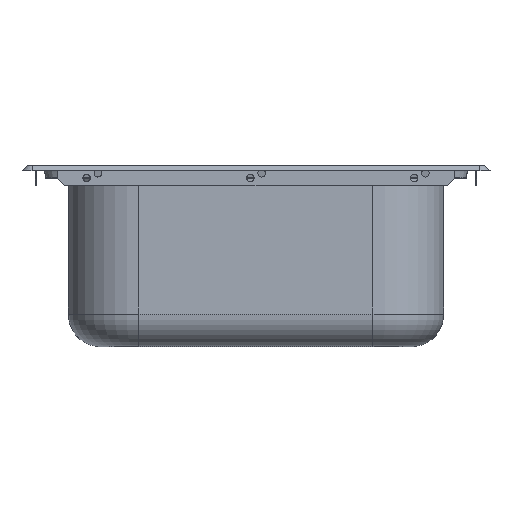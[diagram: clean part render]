
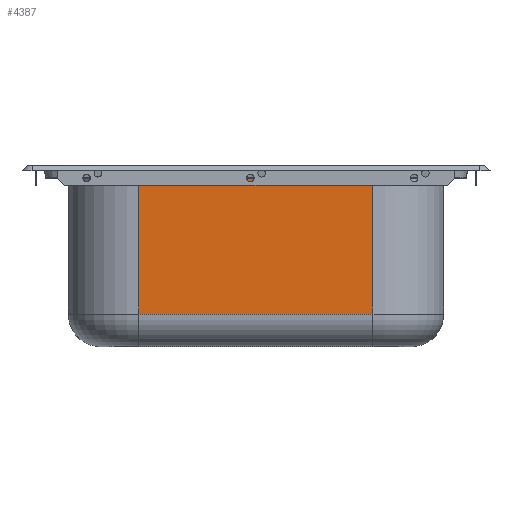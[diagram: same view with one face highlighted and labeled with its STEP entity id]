
A CAD part, front view. The second image highlights one B-rep face of the part: STEP entity #4387.
In plain terms, the highlighted planar face has unit normal (0, -1, 0).
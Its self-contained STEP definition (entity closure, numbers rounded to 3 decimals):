
#4213=CARTESIAN_POINT('Vertex',(-125.,-530.6,0.)) ;
#4216=CARTESIAN_POINT('Line Origine',(0.,-530.6,0.)) ;
#4220=CARTESIAN_POINT('Vertex',(125.,-530.6,0.)) ;
#4338=CARTESIAN_POINT('Line Origine',(-125.,-530.6,-90.)) ;
#4342=CARTESIAN_POINT('Vertex',(-125.,-530.6,-145.)) ;
#4364=CARTESIAN_POINT('Axis2P3D Location',(125.,-530.6,0.)) ;
#4369=CARTESIAN_POINT('Line Origine',(125.,-530.6,-72.5)) ;
#4373=CARTESIAN_POINT('Vertex',(125.,-530.6,-145.)) ;
#4376=CARTESIAN_POINT('Line Origine',(0.,-530.6,-145.)) ;
#4217=DIRECTION('Vector Direction',(-1.,0.,0.)) ;
#4339=DIRECTION('Vector Direction',(0.,0.,1.)) ;
#4365=DIRECTION('Axis2P3D Direction',(0.,-1.,0.)) ;
#4366=DIRECTION('Axis2P3D XDirection',(-1.,0.,0.)) ;
#4370=DIRECTION('Vector Direction',(0.,0.,-1.)) ;
#4377=DIRECTION('Vector Direction',(-1.,0.,0.)) ;
#4367=AXIS2_PLACEMENT_3D('Plane Axis2P3D',#4364,#4365,#4366) ;
#4382=ORIENTED_EDGE('',*,*,#4375,.F.) ;
#4383=ORIENTED_EDGE('',*,*,#4222,.F.) ;
#4384=ORIENTED_EDGE('',*,*,#4344,.T.) ;
#4385=ORIENTED_EDGE('',*,*,#4380,.T.) ;
#4218=VECTOR('Line Direction',#4217,1.) ;
#4340=VECTOR('Line Direction',#4339,1.) ;
#4371=VECTOR('Line Direction',#4370,1.) ;
#4378=VECTOR('Line Direction',#4377,1.) ;
#4387=ADVANCED_FACE('Vasca',(#4386),#4368,.T.) ;
#4222=EDGE_CURVE('',#4214,#4221,#4219,.F.) ;
#4344=EDGE_CURVE('',#4214,#4343,#4341,.F.) ;
#4375=EDGE_CURVE('',#4221,#4374,#4372,.T.) ;
#4380=EDGE_CURVE('',#4343,#4374,#4379,.F.) ;
#4381=EDGE_LOOP('',(#4382,#4383,#4384,#4385)) ;
#4386=FACE_OUTER_BOUND('',#4381,.T.) ;
#4219=LINE('Line',#4216,#4218) ;
#4341=LINE('Line',#4338,#4340) ;
#4372=LINE('Line',#4369,#4371) ;
#4379=LINE('Line',#4376,#4378) ;
#4368=PLANE('',#4367) ;
#4214=VERTEX_POINT('',#4213) ;
#4221=VERTEX_POINT('',#4220) ;
#4343=VERTEX_POINT('',#4342) ;
#4374=VERTEX_POINT('',#4373) ;
